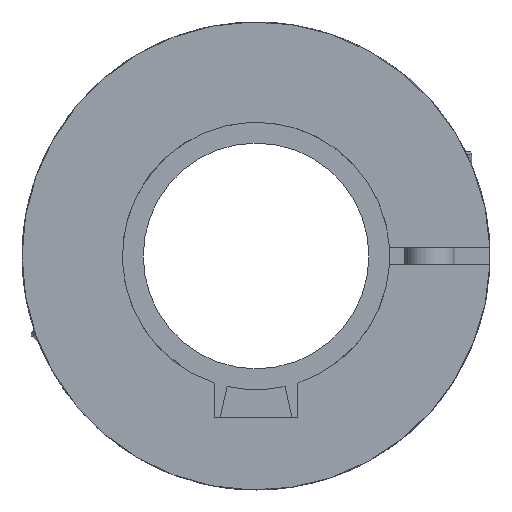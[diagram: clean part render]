
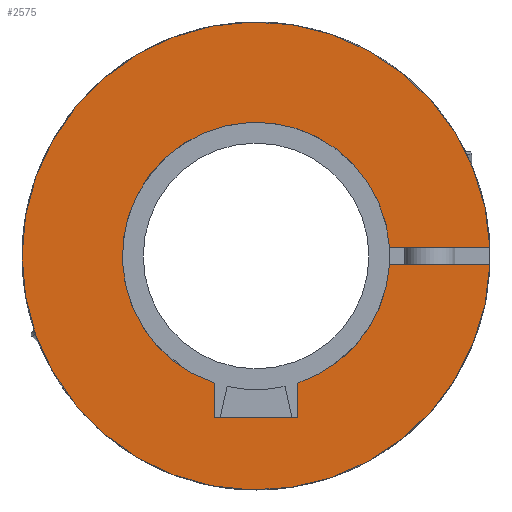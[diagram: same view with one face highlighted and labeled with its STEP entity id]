
A CAD part, left-side view. The second image highlights one B-rep face of the part: STEP entity #2575.
In plain terms, the highlighted planar face has unit normal (-1, 0, 0).
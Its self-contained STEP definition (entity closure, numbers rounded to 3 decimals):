
#91=PLANE('',#2859);
#213=FACE_OUTER_BOUND('',#360,.T.);
#360=EDGE_LOOP('',(#2024,#2025,#2026,#2027,#2028,#2029,#2030,#2031));
#546=LINE('',#4305,#789);
#550=LINE('',#4312,#793);
#552=LINE('',#4315,#795);
#556=LINE('',#4331,#799);
#558=LINE('',#4338,#801);
#789=VECTOR('',#3328,1.);
#793=VECTOR('',#3334,1.);
#795=VECTOR('',#3338,1.);
#799=VECTOR('',#3354,1000.);
#801=VECTOR('',#3362,1000.);
#985=CIRCLE('',#2834,16.);
#988=CIRCLE('',#2838,28.);
#999=CIRCLE('',#2853,16.);
#1165=VERTEX_POINT('',#4160);
#1166=VERTEX_POINT('',#4162);
#1171=VERTEX_POINT('',#4174);
#1172=VERTEX_POINT('',#4175);
#1197=VERTEX_POINT('',#4302);
#1198=VERTEX_POINT('',#4304);
#1200=VERTEX_POINT('',#4310);
#1203=VERTEX_POINT('',#4321);
#1465=EDGE_CURVE('',#1166,#1165,#985,.T.);
#1471=EDGE_CURVE('',#1171,#1172,#988,.T.);
#1497=EDGE_CURVE('',#1198,#1197,#546,.T.);
#1501=EDGE_CURVE('',#1197,#1200,#550,.T.);
#1503=EDGE_CURVE('',#1200,#1166,#552,.T.);
#1506=EDGE_CURVE('',#1203,#1198,#999,.T.);
#1511=EDGE_CURVE('',#1203,#1172,#556,.T.);
#1515=EDGE_CURVE('',#1171,#1165,#558,.T.);
#2024=ORIENTED_EDGE('',*,*,#1506,.T.);
#2025=ORIENTED_EDGE('',*,*,#1497,.T.);
#2026=ORIENTED_EDGE('',*,*,#1501,.T.);
#2027=ORIENTED_EDGE('',*,*,#1503,.T.);
#2028=ORIENTED_EDGE('',*,*,#1465,.T.);
#2029=ORIENTED_EDGE('',*,*,#1515,.F.);
#2030=ORIENTED_EDGE('',*,*,#1471,.T.);
#2031=ORIENTED_EDGE('',*,*,#1511,.F.);
#2575=ADVANCED_FACE('',(#213),#91,.F.);
#2834=AXIS2_PLACEMENT_3D('',#4163,#3283,#3284);
#2838=AXIS2_PLACEMENT_3D('',#4176,#3294,#3295);
#2853=AXIS2_PLACEMENT_3D('',#4322,#3344,#3345);
#2859=AXIS2_PLACEMENT_3D('',#4337,#3360,#3361);
#3283=DIRECTION('center_axis',(1.,0.,0.));
#3284=DIRECTION('ref_axis',(0.,0.,-1.));
#3294=DIRECTION('center_axis',(-1.,0.,0.));
#3295=DIRECTION('ref_axis',(0.,-1.,0.));
#3328=DIRECTION('',(0.,0.,-1.));
#3334=DIRECTION('',(0.,1.,0.));
#3338=DIRECTION('',(0.,0.,1.));
#3344=DIRECTION('center_axis',(1.,0.,0.));
#3345=DIRECTION('ref_axis',(0.,0.,-1.));
#3354=DIRECTION('',(0.,-1.,0.));
#3360=DIRECTION('center_axis',(1.,0.,0.));
#3361=DIRECTION('ref_axis',(0.,0.,-1.));
#3362=DIRECTION('',(0.,1.,0.));
#4160=CARTESIAN_POINT('',(0.,-15.969,1.));
#4162=CARTESIAN_POINT('',(0.,5.,-15.199));
#4163=CARTESIAN_POINT('Origin',(0.,0.,0.));
#4174=CARTESIAN_POINT('',(0.,-27.982,1.));
#4175=CARTESIAN_POINT('',(0.,-27.982,-1.));
#4176=CARTESIAN_POINT('Origin',(0.,0.,0.));
#4302=CARTESIAN_POINT('',(0.,-5.,-19.3));
#4304=CARTESIAN_POINT('',(0.,-5.,-15.199));
#4305=CARTESIAN_POINT('',(0.,-5.,9.175));
#4310=CARTESIAN_POINT('',(0.,5.,-19.3));
#4312=CARTESIAN_POINT('',(0.,0.,-19.3));
#4315=CARTESIAN_POINT('',(0.,5.,9.175));
#4321=CARTESIAN_POINT('',(0.,-15.969,-1.));
#4322=CARTESIAN_POINT('Origin',(0.,0.,0.));
#4331=CARTESIAN_POINT('',(0.,-3.411,-1.));
#4337=CARTESIAN_POINT('Origin',(0.,0.,28.));
#4338=CARTESIAN_POINT('',(0.,-3.411,1.));
